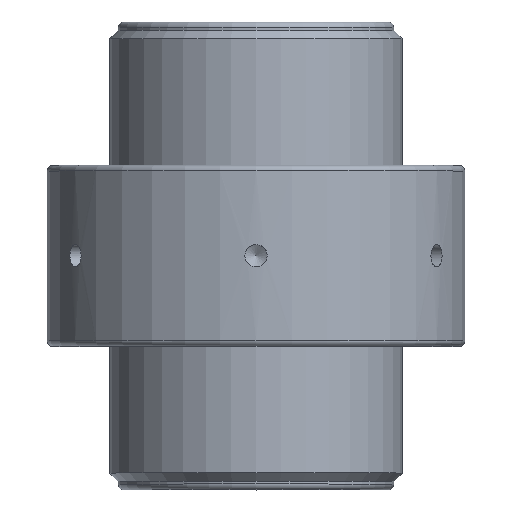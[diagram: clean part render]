
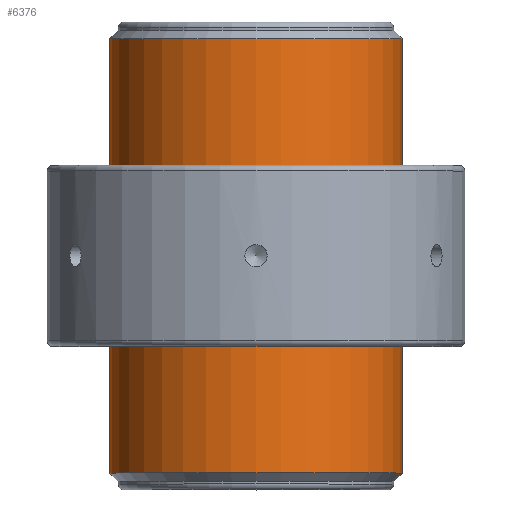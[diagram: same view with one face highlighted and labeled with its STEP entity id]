
A CAD part, top view. The second image highlights one B-rep face of the part: STEP entity #6376.
In plain terms, the highlighted cylindrical face has radius 52.5 mm (diameter 105 mm), a full revolution.
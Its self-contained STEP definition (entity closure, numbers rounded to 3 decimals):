
#37=CYLINDRICAL_SURFACE('',#6691,52.5);
#56=CIRCLE('',#6690,52.5);
#57=CIRCLE('',#6692,52.5);
#87=FACE_BOUND('',#1307,.T.);
#929=FACE_OUTER_BOUND('',#1306,.T.);
#1306=EDGE_LOOP('',(#5097));
#1307=EDGE_LOOP('',(#5098));
#2862=VERTEX_POINT('',#9969);
#2863=VERTEX_POINT('',#9972);
#3667=EDGE_CURVE('',#2862,#2862,#56,.T.);
#3668=EDGE_CURVE('',#2863,#2863,#57,.T.);
#5097=ORIENTED_EDGE('',*,*,#3667,.T.);
#5098=ORIENTED_EDGE('',*,*,#3668,.F.);
#6376=ADVANCED_FACE('',(#929,#87),#37,.T.);
#6690=AXIS2_PLACEMENT_3D('',#9970,#7202,#7203);
#6691=AXIS2_PLACEMENT_3D('',#9971,#7204,#7205);
#6692=AXIS2_PLACEMENT_3D('',#9973,#7206,#7207);
#7202=DIRECTION('center_axis',(0.,-1.,0.));
#7203=DIRECTION('ref_axis',(1.,0.,0.));
#7204=DIRECTION('center_axis',(0.,-1.,0.));
#7205=DIRECTION('ref_axis',(1.,0.,0.));
#7206=DIRECTION('center_axis',(0.,-1.,0.));
#7207=DIRECTION('ref_axis',(1.,0.,0.));
#9969=CARTESIAN_POINT('',(52.5,78.,0.));
#9970=CARTESIAN_POINT('Origin',(0.,78.,0.));
#9971=CARTESIAN_POINT('Origin',(0.,0.,0.));
#9972=CARTESIAN_POINT('',(52.5,-78.,0.));
#9973=CARTESIAN_POINT('Origin',(0.,-78.,0.));
